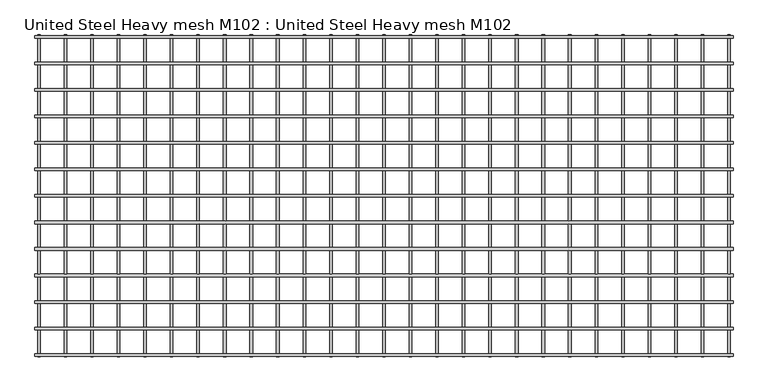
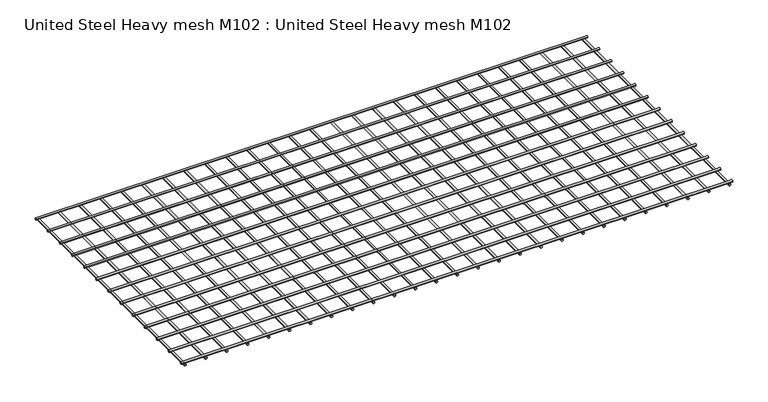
"""IFC4 building model written with IfcOpenShell, lengths in millimetres: proxy geometry, United Steel Heavy mesh M102 : United Steel Heavy mesh M102."""

from ifc_helpers import new_model, si_unit, point, frame, frame_2d, origin, place, context, project, spatial, circle_curve, trimmed, segment, composite_curve, outline, extrude, source, transform, mapped, element, save


def united_steel_heavy_mesh_m102_united_steel_heavy_mesh_m102_de9dde1c(model_context):
    return source(origin(), model_context, "Body", "SweptSolid", [
        extrude(outline(composite_curve([segment(trimmed(circle_curve(frame_2d((-214.7228175, 29.9885816)), 10.0), [point((-224.7228175, 29.9885816))], [point((-204.7228175, 29.9885816))], False, "CARTESIAN"), True, "CONTINUOUS"), segment(trimmed(circle_curve(frame_2d((-214.7228175, 29.9885816)), 10.0), [point((-204.7228175, 29.9885816))], [point((-224.7228175, 29.9885816))], False, "CARTESIAN"), True, "CONTINUOUS")], self_intersect=False)), frame((-5260.0, 0.0, 0.0), z_axis=(1.0, 0.0, 0.0), x_axis=(0.0, 1.0, 0.0)), (0.0, 0.0, 1.0), 5260.0),
        extrude(outline(composite_curve([segment(trimmed(circle_curve(frame_2d((-414.7504995, 29.9885816)), 10.0), [point((-424.7504995, 29.9885816))], [point((-404.7504995, 29.9885816))], False, "CARTESIAN"), True, "CONTINUOUS"), segment(trimmed(circle_curve(frame_2d((-414.7504995, 29.9885816)), 10.0), [point((-404.7504995, 29.9885816))], [point((-424.7504995, 29.9885816))], False, "CARTESIAN"), True, "CONTINUOUS")], self_intersect=False)), frame((-5260.0, 0.0, 0.0), z_axis=(1.0, 0.0, 0.0), x_axis=(0.0, 1.0, 0.0)), (0.0, 0.0, 1.0), 5260.0),
        extrude(outline(composite_curve([segment(trimmed(circle_curve(frame_2d((9.9960025, -5030.1783543)), 10.0), [point((9.9960025, -5040.1783543))], [point((9.9960025, -5020.1783543))], False, "CARTESIAN"), True, "CONTINUOUS"), segment(trimmed(circle_curve(frame_2d((9.9960025, -5030.1783543)), 10.0), [point((9.9960025, -5020.1783543))], [point((9.9960025, -5040.1783543))], False, "CARTESIAN"), True, "CONTINUOUS")], self_intersect=False)), frame((0.0, -2430.0, 0.0), z_axis=(0.0, 1.0, 0.0), x_axis=(0.0, 0.0, 1.0)), (0.0, 0.0, 1.0), 2430.0),
        extrude(outline(composite_curve([segment(trimmed(circle_curve(frame_2d((-614.7781814, 29.9885816)), 10.0), [point((-624.7781814, 29.9885816))], [point((-604.7781814, 29.9885816))], False, "CARTESIAN"), True, "CONTINUOUS"), segment(trimmed(circle_curve(frame_2d((-614.7781814, 29.9885816)), 10.0), [point((-604.7781814, 29.9885816))], [point((-624.7781814, 29.9885816))], False, "CARTESIAN"), True, "CONTINUOUS")], self_intersect=False)), frame((-5260.0, 0.0, 0.0), z_axis=(1.0, 0.0, 0.0), x_axis=(0.0, 1.0, 0.0)), (0.0, 0.0, 1.0), 5260.0),
        extrude(outline(composite_curve([segment(trimmed(circle_curve(frame_2d((-814.8058634, 29.9885816)), 10.0), [point((-824.8058634, 29.9885816))], [point((-804.8058634, 29.9885816))], False, "CARTESIAN"), True, "CONTINUOUS"), segment(trimmed(circle_curve(frame_2d((-814.8058634, 29.9885816)), 10.0), [point((-804.8058634, 29.9885816))], [point((-824.8058634, 29.9885816))], False, "CARTESIAN"), True, "CONTINUOUS")], self_intersect=False)), frame((-5260.0, 0.0, 0.0), z_axis=(1.0, 0.0, 0.0), x_axis=(0.0, 1.0, 0.0)), (0.0, 0.0, 1.0), 5260.0),
        extrude(outline(composite_curve([segment(trimmed(circle_curve(frame_2d((-1014.8335453, 29.9885816)), 10.0), [point((-1024.8335453, 29.9885816))], [point((-1004.8335453, 29.9885816))], False, "CARTESIAN"), True, "CONTINUOUS"), segment(trimmed(circle_curve(frame_2d((-1014.8335453, 29.9885816)), 10.0), [point((-1004.8335453, 29.9885816))], [point((-1024.8335453, 29.9885816))], False, "CARTESIAN"), True, "CONTINUOUS")], self_intersect=False)), frame((-5260.0, 0.0, 0.0), z_axis=(1.0, 0.0, 0.0), x_axis=(0.0, 1.0, 0.0)), (0.0, 0.0, 1.0), 5260.0),
        extrude(outline(composite_curve([segment(trimmed(circle_curve(frame_2d((-1214.8612273, 29.9885816)), 10.0), [point((-1224.8612273, 29.9885816))], [point((-1204.8612273, 29.9885816))], False, "CARTESIAN"), True, "CONTINUOUS"), segment(trimmed(circle_curve(frame_2d((-1214.8612273, 29.9885816)), 10.0), [point((-1204.8612273, 29.9885816))], [point((-1224.8612273, 29.9885816))], False, "CARTESIAN"), True, "CONTINUOUS")], self_intersect=False)), frame((-5260.0, 0.0, 0.0), z_axis=(1.0, 0.0, 0.0), x_axis=(0.0, 1.0, 0.0)), (0.0, 0.0, 1.0), 5260.0),
        extrude(outline(composite_curve([segment(trimmed(circle_curve(frame_2d((-1414.8889092, 29.9885816)), 10.0), [point((-1424.8889092, 29.9885816))], [point((-1404.8889092, 29.9885816))], False, "CARTESIAN"), True, "CONTINUOUS"), segment(trimmed(circle_curve(frame_2d((-1414.8889092, 29.9885816)), 10.0), [point((-1404.8889092, 29.9885816))], [point((-1424.8889092, 29.9885816))], False, "CARTESIAN"), True, "CONTINUOUS")], self_intersect=False)), frame((-5260.0, 0.0, 0.0), z_axis=(1.0, 0.0, 0.0), x_axis=(0.0, 1.0, 0.0)), (0.0, 0.0, 1.0), 5260.0),
        extrude(outline(composite_curve([segment(trimmed(circle_curve(frame_2d((-1614.9165911, 29.9885816)), 10.0), [point((-1624.9165911, 29.9885816))], [point((-1604.9165911, 29.9885816))], False, "CARTESIAN"), True, "CONTINUOUS"), segment(trimmed(circle_curve(frame_2d((-1614.9165911, 29.9885816)), 10.0), [point((-1604.9165911, 29.9885816))], [point((-1624.9165911, 29.9885816))], False, "CARTESIAN"), True, "CONTINUOUS")], self_intersect=False)), frame((-5260.0, 0.0, 0.0), z_axis=(1.0, 0.0, 0.0), x_axis=(0.0, 1.0, 0.0)), (0.0, 0.0, 1.0), 5260.0),
        extrude(outline(composite_curve([segment(trimmed(circle_curve(frame_2d((-1814.9442731, 29.9885816)), 10.0), [point((-1824.9442731, 29.9885816))], [point((-1804.9442731, 29.9885816))], False, "CARTESIAN"), True, "CONTINUOUS"), segment(trimmed(circle_curve(frame_2d((-1814.9442731, 29.9885816)), 10.0), [point((-1804.9442731, 29.9885816))], [point((-1824.9442731, 29.9885816))], False, "CARTESIAN"), True, "CONTINUOUS")], self_intersect=False)), frame((-5260.0, 0.0, 0.0), z_axis=(1.0, 0.0, 0.0), x_axis=(0.0, 1.0, 0.0)), (0.0, 0.0, 1.0), 5260.0),
        extrude(outline(composite_curve([segment(trimmed(circle_curve(frame_2d((-2014.971955, 29.9885816)), 10.0), [point((-2024.971955, 29.9885816))], [point((-2004.971955, 29.9885816))], False, "CARTESIAN"), True, "CONTINUOUS"), segment(trimmed(circle_curve(frame_2d((-2014.971955, 29.9885816)), 10.0), [point((-2004.971955, 29.9885816))], [point((-2024.971955, 29.9885816))], False, "CARTESIAN"), True, "CONTINUOUS")], self_intersect=False)), frame((-5260.0, 0.0, 0.0), z_axis=(1.0, 0.0, 0.0), x_axis=(0.0, 1.0, 0.0)), (0.0, 0.0, 1.0), 5260.0),
        extrude(outline(composite_curve([segment(trimmed(circle_curve(frame_2d((-2214.999637, 29.9885816)), 10.0), [point((-2224.999637, 29.9885816))], [point((-2204.999637, 29.9885816))], False, "CARTESIAN"), True, "CONTINUOUS"), segment(trimmed(circle_curve(frame_2d((-2214.999637, 29.9885816)), 10.0), [point((-2204.999637, 29.9885816))], [point((-2224.999637, 29.9885816))], False, "CARTESIAN"), True, "CONTINUOUS")], self_intersect=False)), frame((-5260.0, 0.0, 0.0), z_axis=(1.0, 0.0, 0.0), x_axis=(0.0, 1.0, 0.0)), (0.0, 0.0, 1.0), 5260.0),
        extrude(outline(composite_curve([segment(trimmed(circle_curve(frame_2d((-14.6951356, 29.9885816)), 10.0), [point((-24.6951356, 29.9885816))], [point((-4.6951356, 29.9885816))], False, "CARTESIAN"), True, "CONTINUOUS"), segment(trimmed(circle_curve(frame_2d((-14.6951356, 29.9885816)), 10.0), [point((-4.6951356, 29.9885816))], [point((-24.6951356, 29.9885816))], False, "CARTESIAN"), True, "CONTINUOUS")], self_intersect=False)), frame((-5260.0, 0.0, 0.0), z_axis=(1.0, 0.0, 0.0), x_axis=(0.0, 1.0, 0.0)), (0.0, 0.0, 1.0), 5260.0),
        extrude(outline(composite_curve([segment(trimmed(circle_curve(frame_2d((-2415.0273189, 29.9885816)), 10.0), [point((-2425.0273189, 29.9885816))], [point((-2405.0273189, 29.9885816))], False, "CARTESIAN"), True, "CONTINUOUS"), segment(trimmed(circle_curve(frame_2d((-2415.0273189, 29.9885816)), 10.0), [point((-2405.0273189, 29.9885816))], [point((-2425.0273189, 29.9885816))], False, "CARTESIAN"), True, "CONTINUOUS")], self_intersect=False)), frame((-5260.0, 0.0, 0.0), z_axis=(1.0, 0.0, 0.0), x_axis=(0.0, 1.0, 0.0)), (0.0, 0.0, 1.0), 5260.0),
        extrude(outline(composite_curve([segment(trimmed(circle_curve(frame_2d((9.9960025, -4830.1805858)), 10.0), [point((9.9960025, -4840.1805858))], [point((9.9960025, -4820.1805858))], False, "CARTESIAN"), True, "CONTINUOUS"), segment(trimmed(circle_curve(frame_2d((9.9960025, -4830.1805858)), 10.0), [point((9.9960025, -4820.1805858))], [point((9.9960025, -4840.1805858))], False, "CARTESIAN"), True, "CONTINUOUS")], self_intersect=False)), frame((0.0, -2430.0, 0.0), z_axis=(0.0, 1.0, 0.0), x_axis=(0.0, 0.0, 1.0)), (0.0, 0.0, 1.0), 2430.0),
        extrude(outline(composite_curve([segment(trimmed(circle_curve(frame_2d((9.9960025, -4630.1828172)), 10.0), [point((9.9960025, -4640.1828172))], [point((9.9960025, -4620.1828172))], False, "CARTESIAN"), True, "CONTINUOUS"), segment(trimmed(circle_curve(frame_2d((9.9960025, -4630.1828172)), 10.0), [point((9.9960025, -4620.1828172))], [point((9.9960025, -4640.1828172))], False, "CARTESIAN"), True, "CONTINUOUS")], self_intersect=False)), frame((0.0, -2430.0, 0.0), z_axis=(0.0, 1.0, 0.0), x_axis=(0.0, 0.0, 1.0)), (0.0, 0.0, 1.0), 2430.0),
        extrude(outline(composite_curve([segment(trimmed(circle_curve(frame_2d((9.9960025, -4430.1850487)), 10.0), [point((9.9960025, -4440.1850487))], [point((9.9960025, -4420.1850487))], False, "CARTESIAN"), True, "CONTINUOUS"), segment(trimmed(circle_curve(frame_2d((9.9960025, -4430.1850487)), 10.0), [point((9.9960025, -4420.1850487))], [point((9.9960025, -4440.1850487))], False, "CARTESIAN"), True, "CONTINUOUS")], self_intersect=False)), frame((0.0, -2430.0, 0.0), z_axis=(0.0, 1.0, 0.0), x_axis=(0.0, 0.0, 1.0)), (0.0, 0.0, 1.0), 2430.0),
        extrude(outline(composite_curve([segment(trimmed(circle_curve(frame_2d((9.9960025, -4230.1872802)), 10.0), [point((9.9960025, -4240.1872802))], [point((9.9960025, -4220.1872802))], False, "CARTESIAN"), True, "CONTINUOUS"), segment(trimmed(circle_curve(frame_2d((9.9960025, -4230.1872802)), 10.0), [point((9.9960025, -4220.1872802))], [point((9.9960025, -4240.1872802))], False, "CARTESIAN"), True, "CONTINUOUS")], self_intersect=False)), frame((0.0, -2430.0, 0.0), z_axis=(0.0, 1.0, 0.0), x_axis=(0.0, 0.0, 1.0)), (0.0, 0.0, 1.0), 2430.0),
        extrude(outline(composite_curve([segment(trimmed(circle_curve(frame_2d((9.9960025, -4030.1895117)), 10.0), [point((9.9960025, -4040.1895117))], [point((9.9960025, -4020.1895117))], False, "CARTESIAN"), True, "CONTINUOUS"), segment(trimmed(circle_curve(frame_2d((9.9960025, -4030.1895117)), 10.0), [point((9.9960025, -4020.1895117))], [point((9.9960025, -4040.1895117))], False, "CARTESIAN"), True, "CONTINUOUS")], self_intersect=False)), frame((0.0, -2430.0, 0.0), z_axis=(0.0, 1.0, 0.0), x_axis=(0.0, 0.0, 1.0)), (0.0, 0.0, 1.0), 2430.0),
        extrude(outline(composite_curve([segment(trimmed(circle_curve(frame_2d((9.9960025, -3830.1917432)), 10.0), [point((9.9960025, -3840.1917432))], [point((9.9960025, -3820.1917432))], False, "CARTESIAN"), True, "CONTINUOUS"), segment(trimmed(circle_curve(frame_2d((9.9960025, -3830.1917432)), 10.0), [point((9.9960025, -3820.1917432))], [point((9.9960025, -3840.1917432))], False, "CARTESIAN"), True, "CONTINUOUS")], self_intersect=False)), frame((0.0, -2430.0, 0.0), z_axis=(0.0, 1.0, 0.0), x_axis=(0.0, 0.0, 1.0)), (0.0, 0.0, 1.0), 2430.0),
        extrude(outline(composite_curve([segment(trimmed(circle_curve(frame_2d((9.9960025, -3630.1939747)), 10.0), [point((9.9960025, -3640.1939747))], [point((9.9960025, -3620.1939747))], False, "CARTESIAN"), True, "CONTINUOUS"), segment(trimmed(circle_curve(frame_2d((9.9960025, -3630.1939747)), 10.0), [point((9.9960025, -3620.1939747))], [point((9.9960025, -3640.1939747))], False, "CARTESIAN"), True, "CONTINUOUS")], self_intersect=False)), frame((0.0, -2430.0, 0.0), z_axis=(0.0, 1.0, 0.0), x_axis=(0.0, 0.0, 1.0)), (0.0, 0.0, 1.0), 2430.0),
        extrude(outline(composite_curve([segment(trimmed(circle_curve(frame_2d((9.9960025, -3430.1962061)), 10.0), [point((9.9960025, -3440.1962061))], [point((9.9960025, -3420.1962061))], False, "CARTESIAN"), True, "CONTINUOUS"), segment(trimmed(circle_curve(frame_2d((9.9960025, -3430.1962061)), 10.0), [point((9.9960025, -3420.1962061))], [point((9.9960025, -3440.1962061))], False, "CARTESIAN"), True, "CONTINUOUS")], self_intersect=False)), frame((0.0, -2430.0, 0.0), z_axis=(0.0, 1.0, 0.0), x_axis=(0.0, 0.0, 1.0)), (0.0, 0.0, 1.0), 2430.0),
        extrude(outline(composite_curve([segment(trimmed(circle_curve(frame_2d((9.9960025, -3230.1984376)), 10.0), [point((9.9960025, -3240.1984376))], [point((9.9960025, -3220.1984376))], False, "CARTESIAN"), True, "CONTINUOUS"), segment(trimmed(circle_curve(frame_2d((9.9960025, -3230.1984376)), 10.0), [point((9.9960025, -3220.1984376))], [point((9.9960025, -3240.1984376))], False, "CARTESIAN"), True, "CONTINUOUS")], self_intersect=False)), frame((0.0, -2430.0, 0.0), z_axis=(0.0, 1.0, 0.0), x_axis=(0.0, 0.0, 1.0)), (0.0, 0.0, 1.0), 2430.0),
        extrude(outline(composite_curve([segment(trimmed(circle_curve(frame_2d((9.9960025, -3030.2006691)), 10.0), [point((9.9960025, -3040.2006691))], [point((9.9960025, -3020.2006691))], False, "CARTESIAN"), True, "CONTINUOUS"), segment(trimmed(circle_curve(frame_2d((9.9960025, -3030.2006691)), 10.0), [point((9.9960025, -3020.2006691))], [point((9.9960025, -3040.2006691))], False, "CARTESIAN"), True, "CONTINUOUS")], self_intersect=False)), frame((0.0, -2430.0, 0.0), z_axis=(0.0, 1.0, 0.0), x_axis=(0.0, 0.0, 1.0)), (0.0, 0.0, 1.0), 2430.0),
        extrude(outline(composite_curve([segment(trimmed(circle_curve(frame_2d((9.9960025, -2830.2029006)), 10.0), [point((9.9960025, -2840.2029006))], [point((9.9960025, -2820.2029006))], False, "CARTESIAN"), True, "CONTINUOUS"), segment(trimmed(circle_curve(frame_2d((9.9960025, -2830.2029006)), 10.0), [point((9.9960025, -2820.2029006))], [point((9.9960025, -2840.2029006))], False, "CARTESIAN"), True, "CONTINUOUS")], self_intersect=False)), frame((0.0, -2430.0, 0.0), z_axis=(0.0, 1.0, 0.0), x_axis=(0.0, 0.0, 1.0)), (0.0, 0.0, 1.0), 2430.0),
        extrude(outline(composite_curve([segment(trimmed(circle_curve(frame_2d((9.9960025, -2630.2051321)), 10.0), [point((9.9960025, -2640.2051321))], [point((9.9960025, -2620.2051321))], False, "CARTESIAN"), True, "CONTINUOUS"), segment(trimmed(circle_curve(frame_2d((9.9960025, -2630.2051321)), 10.0), [point((9.9960025, -2620.2051321))], [point((9.9960025, -2640.2051321))], False, "CARTESIAN"), True, "CONTINUOUS")], self_intersect=False)), frame((0.0, -2430.0, 0.0), z_axis=(0.0, 1.0, 0.0), x_axis=(0.0, 0.0, 1.0)), (0.0, 0.0, 1.0), 2430.0),
        extrude(outline(composite_curve([segment(trimmed(circle_curve(frame_2d((9.9960025, -2430.2073636)), 10.0), [point((9.9960025, -2440.2073636))], [point((9.9960025, -2420.2073636))], False, "CARTESIAN"), True, "CONTINUOUS"), segment(trimmed(circle_curve(frame_2d((9.9960025, -2430.2073636)), 10.0), [point((9.9960025, -2420.2073636))], [point((9.9960025, -2440.2073636))], False, "CARTESIAN"), True, "CONTINUOUS")], self_intersect=False)), frame((0.0, -2430.0, 0.0), z_axis=(0.0, 1.0, 0.0), x_axis=(0.0, 0.0, 1.0)), (0.0, 0.0, 1.0), 2430.0),
        extrude(outline(composite_curve([segment(trimmed(circle_curve(frame_2d((9.9960025, -2230.209595)), 10.0), [point((9.9960025, -2240.209595))], [point((9.9960025, -2220.209595))], False, "CARTESIAN"), True, "CONTINUOUS"), segment(trimmed(circle_curve(frame_2d((9.9960025, -2230.209595)), 10.0), [point((9.9960025, -2220.209595))], [point((9.9960025, -2240.209595))], False, "CARTESIAN"), True, "CONTINUOUS")], self_intersect=False)), frame((0.0, -2430.0, 0.0), z_axis=(0.0, 1.0, 0.0), x_axis=(0.0, 0.0, 1.0)), (0.0, 0.0, 1.0), 2430.0),
        extrude(outline(composite_curve([segment(trimmed(circle_curve(frame_2d((9.9960025, -2030.2118265)), 10.0), [point((9.9960025, -2040.2118265))], [point((9.9960025, -2020.2118265))], False, "CARTESIAN"), True, "CONTINUOUS"), segment(trimmed(circle_curve(frame_2d((9.9960025, -2030.2118265)), 10.0), [point((9.9960025, -2020.2118265))], [point((9.9960025, -2040.2118265))], False, "CARTESIAN"), True, "CONTINUOUS")], self_intersect=False)), frame((0.0, -2430.0, 0.0), z_axis=(0.0, 1.0, 0.0), x_axis=(0.0, 0.0, 1.0)), (0.0, 0.0, 1.0), 2430.0),
        extrude(outline(composite_curve([segment(trimmed(circle_curve(frame_2d((9.9960025, -1830.214058)), 10.0), [point((9.9960025, -1840.214058))], [point((9.9960025, -1820.214058))], False, "CARTESIAN"), True, "CONTINUOUS"), segment(trimmed(circle_curve(frame_2d((9.9960025, -1830.214058)), 10.0), [point((9.9960025, -1820.214058))], [point((9.9960025, -1840.214058))], False, "CARTESIAN"), True, "CONTINUOUS")], self_intersect=False)), frame((0.0, -2430.0, 0.0), z_axis=(0.0, 1.0, 0.0), x_axis=(0.0, 0.0, 1.0)), (0.0, 0.0, 1.0), 2430.0),
        extrude(outline(composite_curve([segment(trimmed(circle_curve(frame_2d((9.9960025, -1630.2162895)), 10.0), [point((9.9960025, -1640.2162895))], [point((9.9960025, -1620.2162895))], False, "CARTESIAN"), True, "CONTINUOUS"), segment(trimmed(circle_curve(frame_2d((9.9960025, -1630.2162895)), 10.0), [point((9.9960025, -1620.2162895))], [point((9.9960025, -1640.2162895))], False, "CARTESIAN"), True, "CONTINUOUS")], self_intersect=False)), frame((0.0, -2430.0, 0.0), z_axis=(0.0, 1.0, 0.0), x_axis=(0.0, 0.0, 1.0)), (0.0, 0.0, 1.0), 2430.0),
        extrude(outline(composite_curve([segment(trimmed(circle_curve(frame_2d((9.9960025, -1430.218521)), 10.0), [point((9.9960025, -1440.218521))], [point((9.9960025, -1420.218521))], False, "CARTESIAN"), True, "CONTINUOUS"), segment(trimmed(circle_curve(frame_2d((9.9960025, -1430.218521)), 10.0), [point((9.9960025, -1420.218521))], [point((9.9960025, -1440.218521))], False, "CARTESIAN"), True, "CONTINUOUS")], self_intersect=False)), frame((0.0, -2430.0, 0.0), z_axis=(0.0, 1.0, 0.0), x_axis=(0.0, 0.0, 1.0)), (0.0, 0.0, 1.0), 2430.0),
        extrude(outline(composite_curve([segment(trimmed(circle_curve(frame_2d((9.9960025, -1230.2207525)), 10.0), [point((9.9960025, -1240.2207525))], [point((9.9960025, -1220.2207525))], False, "CARTESIAN"), True, "CONTINUOUS"), segment(trimmed(circle_curve(frame_2d((9.9960025, -1230.2207525)), 10.0), [point((9.9960025, -1220.2207525))], [point((9.9960025, -1240.2207525))], False, "CARTESIAN"), True, "CONTINUOUS")], self_intersect=False)), frame((0.0, -2430.0, 0.0), z_axis=(0.0, 1.0, 0.0), x_axis=(0.0, 0.0, 1.0)), (0.0, 0.0, 1.0), 2430.0),
        extrude(outline(composite_curve([segment(trimmed(circle_curve(frame_2d((9.9960025, -1030.222984)), 10.0), [point((9.9960025, -1040.222984))], [point((9.9960025, -1020.222984))], False, "CARTESIAN"), True, "CONTINUOUS"), segment(trimmed(circle_curve(frame_2d((9.9960025, -1030.222984)), 10.0), [point((9.9960025, -1020.222984))], [point((9.9960025, -1040.222984))], False, "CARTESIAN"), True, "CONTINUOUS")], self_intersect=False)), frame((0.0, -2430.0, 0.0), z_axis=(0.0, 1.0, 0.0), x_axis=(0.0, 0.0, 1.0)), (0.0, 0.0, 1.0), 2430.0),
        extrude(outline(composite_curve([segment(trimmed(circle_curve(frame_2d((9.9960025, -830.2252154)), 10.0), [point((9.9960025, -840.2252154))], [point((9.9960025, -820.2252154))], False, "CARTESIAN"), True, "CONTINUOUS"), segment(trimmed(circle_curve(frame_2d((9.9960025, -830.2252154)), 10.0), [point((9.9960025, -820.2252154))], [point((9.9960025, -840.2252154))], False, "CARTESIAN"), True, "CONTINUOUS")], self_intersect=False)), frame((0.0, -2430.0, 0.0), z_axis=(0.0, 1.0, 0.0), x_axis=(0.0, 0.0, 1.0)), (0.0, 0.0, 1.0), 2430.0),
        extrude(outline(composite_curve([segment(trimmed(circle_curve(frame_2d((9.9960025, -630.2274469)), 10.0), [point((9.9960025, -640.2274469))], [point((9.9960025, -620.2274469))], False, "CARTESIAN"), True, "CONTINUOUS"), segment(trimmed(circle_curve(frame_2d((9.9960025, -630.2274469)), 10.0), [point((9.9960025, -620.2274469))], [point((9.9960025, -640.2274469))], False, "CARTESIAN"), True, "CONTINUOUS")], self_intersect=False)), frame((0.0, -2430.0, 0.0), z_axis=(0.0, 1.0, 0.0), x_axis=(0.0, 0.0, 1.0)), (0.0, 0.0, 1.0), 2430.0),
        extrude(outline(composite_curve([segment(trimmed(circle_curve(frame_2d((9.9960025, -430.2296784)), 10.0), [point((9.9960025, -440.2296784))], [point((9.9960025, -420.2296784))], False, "CARTESIAN"), True, "CONTINUOUS"), segment(trimmed(circle_curve(frame_2d((9.9960025, -430.2296784)), 10.0), [point((9.9960025, -420.2296784))], [point((9.9960025, -440.2296784))], False, "CARTESIAN"), True, "CONTINUOUS")], self_intersect=False)), frame((0.0, -2430.0, 0.0), z_axis=(0.0, 1.0, 0.0), x_axis=(0.0, 0.0, 1.0)), (0.0, 0.0, 1.0), 2430.0),
        extrude(outline(composite_curve([segment(trimmed(circle_curve(frame_2d((9.9960025, -230.2319099)), 10.0), [point((9.9960025, -240.2319099))], [point((9.9960025, -220.2319099))], False, "CARTESIAN"), True, "CONTINUOUS"), segment(trimmed(circle_curve(frame_2d((9.9960025, -230.2319099)), 10.0), [point((9.9960025, -220.2319099))], [point((9.9960025, -240.2319099))], False, "CARTESIAN"), True, "CONTINUOUS")], self_intersect=False)), frame((0.0, -2430.0, 0.0), z_axis=(0.0, 1.0, 0.0), x_axis=(0.0, 0.0, 1.0)), (0.0, 0.0, 1.0), 2430.0),
        extrude(outline(composite_curve([segment(trimmed(circle_curve(frame_2d((9.9960025, -5230.1761228)), 10.0), [point((9.9960025, -5240.1761228))], [point((9.9960025, -5220.1761228))], False, "CARTESIAN"), True, "CONTINUOUS"), segment(trimmed(circle_curve(frame_2d((9.9960025, -5230.1761228)), 10.0), [point((9.9960025, -5220.1761228))], [point((9.9960025, -5240.1761228))], False, "CARTESIAN"), True, "CONTINUOUS")], self_intersect=False)), frame((0.0, -2430.0, 0.0), z_axis=(0.0, 1.0, 0.0), x_axis=(0.0, 0.0, 1.0)), (0.0, 0.0, 1.0), 2430.0),
        extrude(outline(composite_curve([segment(trimmed(circle_curve(frame_2d((9.9960025, -30.2341414)), 10.0), [point((9.9960025, -40.2341414))], [point((9.9960025, -20.2341414))], False, "CARTESIAN"), True, "CONTINUOUS"), segment(trimmed(circle_curve(frame_2d((9.9960025, -30.2341414)), 10.0), [point((9.9960025, -20.2341414))], [point((9.9960025, -40.2341414))], False, "CARTESIAN"), True, "CONTINUOUS")], self_intersect=False)), frame((0.0, -2430.0, 0.0), z_axis=(0.0, 1.0, 0.0), x_axis=(0.0, 0.0, 1.0)), (0.0, 0.0, 1.0), 2430.0),
    ])


if __name__ == "__main__":
    model = new_model("IFC4")
    model_context = context("Model", 3, world=origin())
    ifc_project = project(units=[si_unit("LENGTHUNIT", "METRE", prefix="MILLI")], contexts=[model_context])
    site = spatial("IfcSite", under=ifc_project)
    building = spatial("IfcBuilding", under=site)
    placement = place(None, origin())
    united_steel_heavy_mesh_m102_united_steel_heavy_mesh_m102_shape = united_steel_heavy_mesh_m102_united_steel_heavy_mesh_m102_de9dde1c(model_context)
    element("IfcBuildingElementProxy", 1, Name="United Steel Heavy mesh M102 : United Steel Heavy mesh M102", ObjectType="United Steel Heavy mesh M102 : United Steel Heavy mesh M102", at=placement, inside=building, context=model_context, shape_type="MappedRepresentation", body=[
        mapped(united_steel_heavy_mesh_m102_united_steel_heavy_mesh_m102_shape, transform((0.0, 0.0, 0.0), x_axis=(1.0, 0.0, 0.0), y_axis=(0.0, 1.0, 0.0), z_axis=(0.0, 0.0, 1.0))),
    ])
    save(model, "model.ifc")
